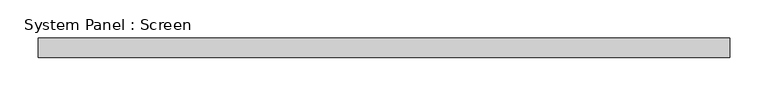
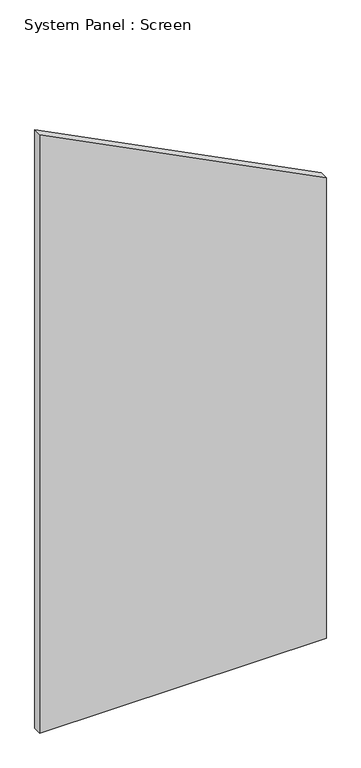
"""IFC4 building model written with IfcOpenShell, lengths in millimetres: plate geometry, System Panel : Screen."""

from ifc_helpers import new_model, si_unit, frame, origin, place, context, project, spatial, polyline, outline, extrude, source, transform, mapped, element, save


def system_panel_screen_66b03ef9(model_context):
    return source(origin(), model_context, "Body", "SweptSolid", [
        extrude(outline(polyline([(0.0, -452.0946), (0.0, 452.0946), (1533.9863066, 452.0946), (1993.601074, -452.0946), (0.0, -452.0946)])), frame((0.0, -12.7, 0.0), z_axis=(0.0, 1.0, 0.0), x_axis=(0.0, 0.0, 1.0)), (0.0, 0.0, 1.0), 25.4),
    ])


if __name__ == "__main__":
    model = new_model("IFC4")
    model_context = context("Model", 3, world=origin())
    ifc_project = project(units=[si_unit("LENGTHUNIT", "METRE", prefix="MILLI")], contexts=[model_context])
    site = spatial("IfcSite", under=ifc_project)
    building = spatial("IfcBuilding", under=site)
    placement = place(None, origin())
    system_panel_screen_shape = system_panel_screen_66b03ef9(model_context)
    element("IfcPlate", 1, ObjectType="System Panel : Screen", at=placement, inside=building, context=model_context, shape_type="MappedRepresentation", body=[
        mapped(system_panel_screen_shape, transform((0.0, 0.0, 0.0), x_axis=(1.0, 0.0, 0.0), y_axis=(0.0, 1.0, 0.0), z_axis=(0.0, 0.0, 1.0))),
    ])
    save(model, "model.ifc")
